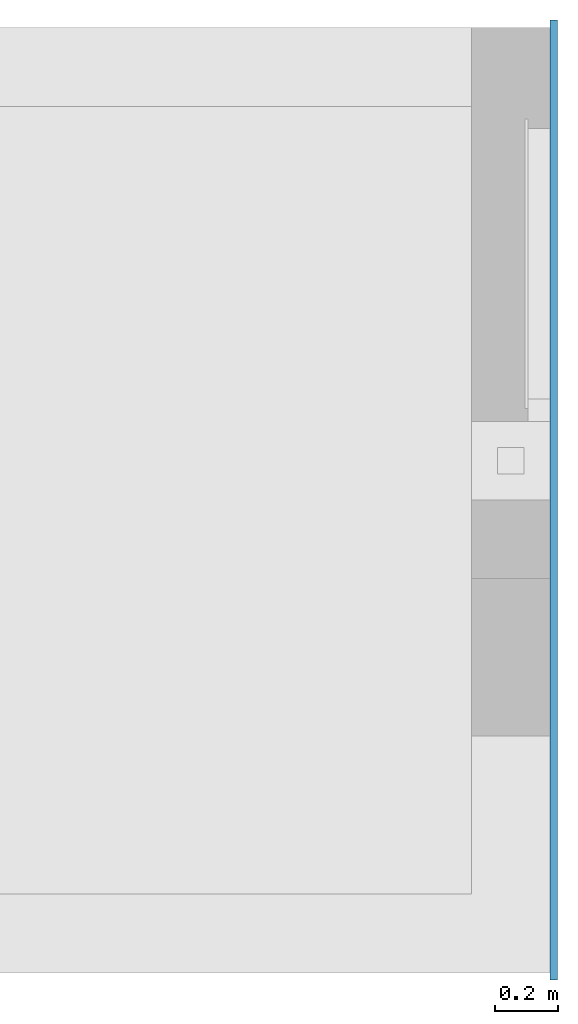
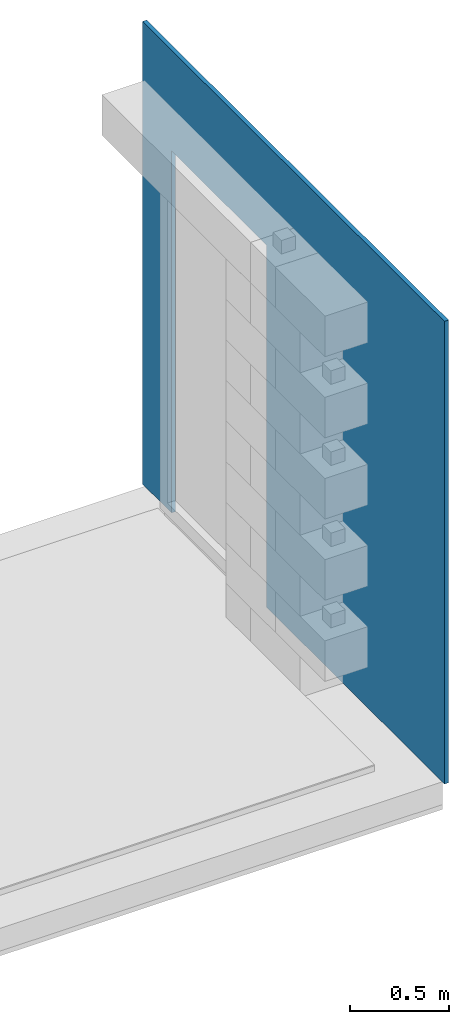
# One storey, part 6 of 8: 1 building element part, 1 element without a shape of its own.
"""IFC4 building model written with IfcOpenShell, lengths in centimetres."""

from ifc_helpers import new_model, entity, si_unit, converted_unit, direction, frame, origin, place, context, subcontext, project, spatial, polygons, material, type_object, element, aggregate, save


model = new_model("IFC4")

# Units and contexts
model_context = context("Model", 3, precision=0.001, world=origin(), true_north=direction((0.0, 1.0)))
body_context = subcontext(model_context, "Body", "Model", "MODEL_VIEW")
ifc_project = project(units=[si_unit("LENGTHUNIT", "METRE", prefix="CENTI"), si_unit("AREAUNIT", "SQUARE_METRE"), si_unit("VOLUMEUNIT", "CUBIC_METRE"), converted_unit("PLANEANGLEUNIT", "DEGREE", entity("IfcPlaneAngleMeasure", 0.017453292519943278), si_unit("PLANEANGLEUNIT", "RADIAN"), dimensions=[0, 0, 0, 0, 0, 0, 0])], contexts=[model_context])

# Site, building, storey
site_placement = place(None, origin())
site = spatial("IfcSite", under=ifc_project, at=site_placement, Name="Default", CompositionType="ELEMENT")
building_placement = place(site_placement, origin())
building = spatial("IfcBuilding", under=site, at=building_placement, CompositionType="ELEMENT")
storey_placement = place(building_placement, frame((0.0, 0.0, -4.0)))
storey = spatial("IfcBuildingStorey", under=building, at=storey_placement, Name="L00__ABOVE Slab", CompositionType="ELEMENT", Elevation=-4.000000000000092)

# Wall, building element part
wall_type = type_object("IfcWallType", Name="Walls : Basic Wall : wll__EXT ENCLOSURE__Wood Cladding__TriqBriq 2", PredefinedType="STANDARD")
wall_placement = place(storey_placement, frame((3183.028914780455, 2430.9200309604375, 0.0), z_axis=(0.0, 0.0, 1.0), x_axis=(0.0, -1.0, 0.0)))
wall = element("IfcWall", 1, at=wall_placement, inside=storey, type_object=wall_type, Name="Walls : Basic Wall : wll__EXT ENCLOSURE__Wood Cladding__TriqBriq 2", PredefinedType="NOTDEFINED")
ifc_material = material(Name="_FCD VENT FINISH__Wood Vertical", Category="Unassigned")
building_element_part_placement = place(wall_placement, frame((304.7999999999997, -1.199999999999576, 0.0)))
building_element_part = element("IfcBuildingElementPart", 2, at=building_element_part_placement, material=ifc_material, Name="_FCD VENT FINISH__Wood Vertical", context=body_context, shape_type="Tessellation", body=[
    polygons([(0.0, -2.128196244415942e-13, 284.99999999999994), (-2.399999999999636, -2.1613981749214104e-13, 284.99999999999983), (-302.40000000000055, -1.764165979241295e-13, 284.99999999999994), (-304.8000000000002, -1.7973679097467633e-13, 284.99999999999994), (-304.8000000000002, -1.7973679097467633e-13, -2.7533531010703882e-14), (-302.40000000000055, -1.764165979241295e-13, -2.7533531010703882e-14), (-277.400000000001, -1.4183125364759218e-13, -2.7533531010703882e-14), (-275.400000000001, -1.3906442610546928e-13, -2.7533531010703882e-14), (-275.400000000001, 3.1568292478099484e-13, 223.00000000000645), (-179.40000000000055, 4.484906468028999e-13, 223.00000000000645), (-179.40000000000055, -6.256704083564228e-15, -2.7533531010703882e-14), (-177.40000000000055, -3.4898765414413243e-15, -2.7533531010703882e-14), (-2.399999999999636, -2.1613981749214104e-13, -2.7533531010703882e-14), (0.0, -2.128196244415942e-13, -2.7533531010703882e-14), (-304.8000000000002, 2.399999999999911, 284.99999999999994), (0.0, 2.3999999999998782, 284.99999999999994), (0.0, 2.3999999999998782, -2.7533531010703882e-14), (-179.40000000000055, 2.4000000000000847, -2.7533531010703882e-14), (-179.40000000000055, 2.4000000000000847, 223.00000000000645), (-275.400000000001, 2.399999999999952, 223.00000000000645), (-275.400000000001, 2.399999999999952, -2.7533531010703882e-14), (-304.8000000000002, 2.399999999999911, -2.7533531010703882e-14)], [[[1, 2, 3, 4, 5, 6, 7, 8, 9, 10, 11, 12, 13, 14]], [[15, 16, 17, 18, 19, 20, 21, 22]], [[6, 5, 22, 21, 8, 7]], [[2, 1, 16, 15, 4, 3]], [[5, 4, 15, 22]], [[9, 8, 21, 20]], [[11, 10, 19, 18]], [[10, 9, 20, 19]], [[1, 14, 17, 16]], [[12, 11, 18, 17, 14, 13]]], closed=True),
])
aggregate(wall, [building_element_part])

save(model, "model.ifc")
